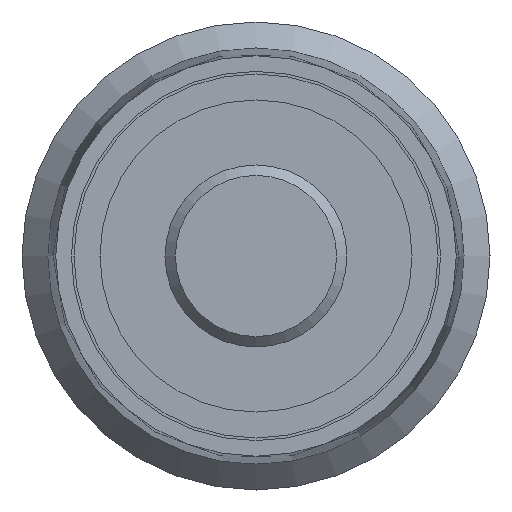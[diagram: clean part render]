
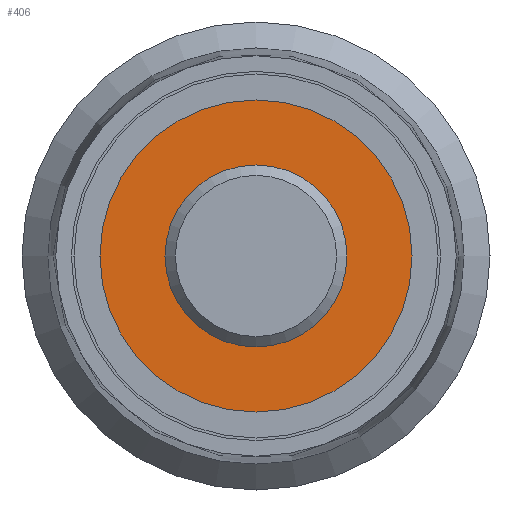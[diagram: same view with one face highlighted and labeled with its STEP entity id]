
A CAD part, left-side view. The second image highlights one B-rep face of the part: STEP entity #406.
In plain terms, the highlighted planar face has unit normal (-1, 0, 0).
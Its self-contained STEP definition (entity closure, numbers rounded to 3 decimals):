
#191=CARTESIAN_POINT('',(0.0,3.,0.0));
#192=VERTEX_POINT('',#191);
#193=CARTESIAN_POINT('',(0.0,0.0,0.0));
#194=DIRECTION('',(1.0,0.0,0.0));
#195=DIRECTION('',(0.0,1.0,0.0));
#196=AXIS2_PLACEMENT_3D('',#193,#194,#195);
#197=CIRCLE('',#196,3.);
#198=EDGE_CURVE('',#192,#192,#197,.T.);
#380=CARTESIAN_POINT('',(0.0,1.75,0.0));
#381=VERTEX_POINT('',#380);
#382=CARTESIAN_POINT('',(0.0,0.0,0.0));
#383=DIRECTION('',(1.0,0.0,0.0));
#384=DIRECTION('',(0.0,1.0,0.0));
#385=AXIS2_PLACEMENT_3D('',#382,#383,#384);
#386=CIRCLE('',#385,1.75);
#387=EDGE_CURVE('',#381,#381,#386,.T.);
#395=CARTESIAN_POINT('',(0.0,2.375,0.0));
#396=DIRECTION('',(-1.0,0.0,0.0));
#397=DIRECTION('',(0.0,0.0,1.0));
#398=AXIS2_PLACEMENT_3D('',#395,#396,#397);
#399=PLANE('',#398);
#400=ORIENTED_EDGE('',*,*,#198,.F.);
#401=EDGE_LOOP('',(#400));
#402=FACE_OUTER_BOUND('',#401,.T.);
#403=ORIENTED_EDGE('',*,*,#387,.T.);
#404=EDGE_LOOP('',(#403));
#405=FACE_BOUND('',#404,.T.);
#406=ADVANCED_FACE('',(#402,#405),#399,.T.);
